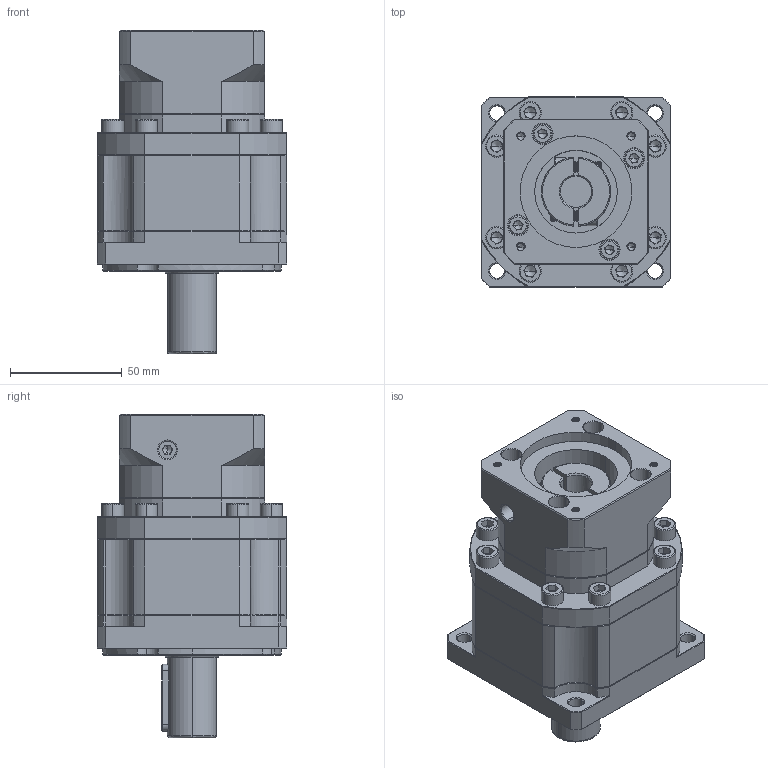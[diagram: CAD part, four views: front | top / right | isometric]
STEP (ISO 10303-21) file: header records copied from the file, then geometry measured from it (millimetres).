
FILE_DESCRIPTION (( 'STEP AP214' ), '1' );
FILE_NAME ('ZB090-D22-L2-P2-14-50-70-M4.step', '2023-08-18T13:36:18', ( '' ), ( '' ), 'SwSTEP 2.0', 'SolidWorks 2016', '' );
FILE_SCHEMA (( 'AUTOMOTIVE_DESIGN' ));
Length unit declared in the file: millimetre
Products named in the file (1): ZB090-D22-L2-P2-14-50-70-M4
Bounding box: 85 x 85 x 145 mm (x, y, z)
Volume: 545020.2 mm3; surface area: 76713.7 mm2
Topology: 6 solids, 6 shells, 2348 faces, 6245 edges, 3993 vertices
Faces by surface type: plane 1185, bspline 426, cylinder 394, cone 321, torus 22
Entity records: 123110 total; most frequent: CARTESIAN_POINT 42230, ORIENTED_EDGE 12398, DIRECTION 9884, EDGE_CURVE 6199, VERTEX_POINT 3993, VECTOR 3924, LINE 3924, AXIS2_PLACEMENT_3D 2980
